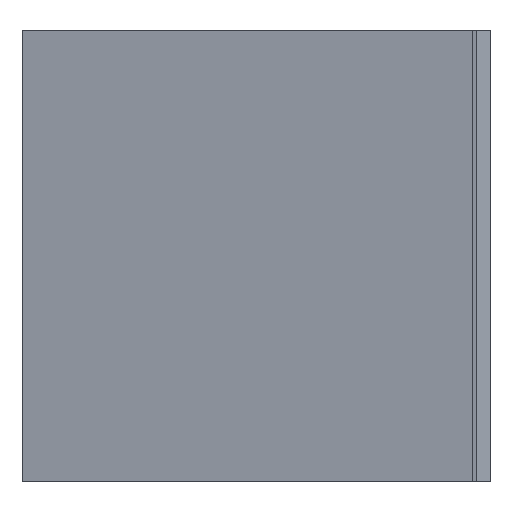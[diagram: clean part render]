
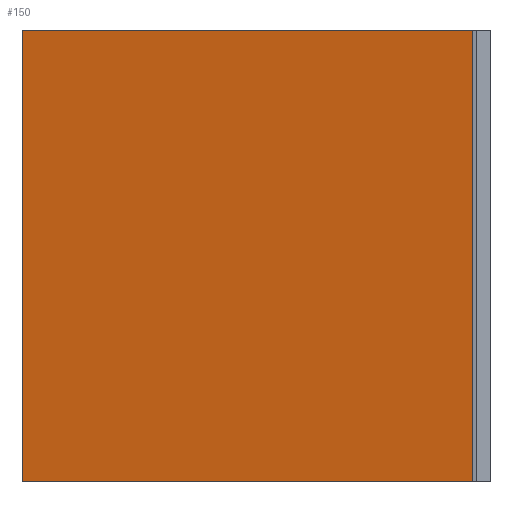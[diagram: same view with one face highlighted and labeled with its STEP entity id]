
A CAD part, left-side view. The second image highlights one B-rep face of the part: STEP entity #150.
In plain terms, the highlighted planar face has unit normal (0.976, -0.216, 0).
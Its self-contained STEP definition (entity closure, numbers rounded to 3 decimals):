
#98=CARTESIAN_POINT('Vertex',(20.,0.,0.)) ;
#101=CARTESIAN_POINT('Line Origine',(20.,0.,65.5)) ;
#105=CARTESIAN_POINT('Vertex',(20.,0.,131.)) ;
#120=CARTESIAN_POINT('Axis2P3D Location',(20.,0.,0.)) ;
#125=CARTESIAN_POINT('Line Origine',(34.5,65.5,0.)) ;
#129=CARTESIAN_POINT('Vertex',(49.,131.,0.)) ;
#132=CARTESIAN_POINT('Line Origine',(49.,131.,65.5)) ;
#136=CARTESIAN_POINT('Vertex',(49.,131.,131.)) ;
#139=CARTESIAN_POINT('Line Origine',(34.5,65.5,131.)) ;
#102=DIRECTION('Vector Direction',(0.,0.,1.)) ;
#121=DIRECTION('Axis2P3D Direction',(0.976,-0.216,0.)) ;
#122=DIRECTION('Axis2P3D XDirection',(0.216,0.976,0.)) ;
#126=DIRECTION('Vector Direction',(0.216,0.976,0.)) ;
#133=DIRECTION('Vector Direction',(0.,0.,1.)) ;
#140=DIRECTION('Vector Direction',(0.216,0.976,0.)) ;
#123=AXIS2_PLACEMENT_3D('Plane Axis2P3D',#120,#121,#122) ;
#145=ORIENTED_EDGE('',*,*,#107,.F.) ;
#146=ORIENTED_EDGE('',*,*,#131,.T.) ;
#147=ORIENTED_EDGE('',*,*,#138,.T.) ;
#148=ORIENTED_EDGE('',*,*,#143,.F.) ;
#103=VECTOR('Line Direction',#102,1.) ;
#127=VECTOR('Line Direction',#126,1.) ;
#134=VECTOR('Line Direction',#133,1.) ;
#141=VECTOR('Line Direction',#140,1.) ;
#150=ADVANCED_FACE('Extrude.1',(#149),#124,.T.) ;
#107=EDGE_CURVE('',#99,#106,#104,.T.) ;
#131=EDGE_CURVE('',#99,#130,#128,.T.) ;
#138=EDGE_CURVE('',#130,#137,#135,.T.) ;
#143=EDGE_CURVE('',#106,#137,#142,.T.) ;
#144=EDGE_LOOP('',(#145,#146,#147,#148)) ;
#149=FACE_OUTER_BOUND('',#144,.T.) ;
#104=LINE('Line',#101,#103) ;
#128=LINE('Line',#125,#127) ;
#135=LINE('Line',#132,#134) ;
#142=LINE('Line',#139,#141) ;
#124=PLANE('',#123) ;
#99=VERTEX_POINT('',#98) ;
#106=VERTEX_POINT('',#105) ;
#130=VERTEX_POINT('',#129) ;
#137=VERTEX_POINT('',#136) ;
